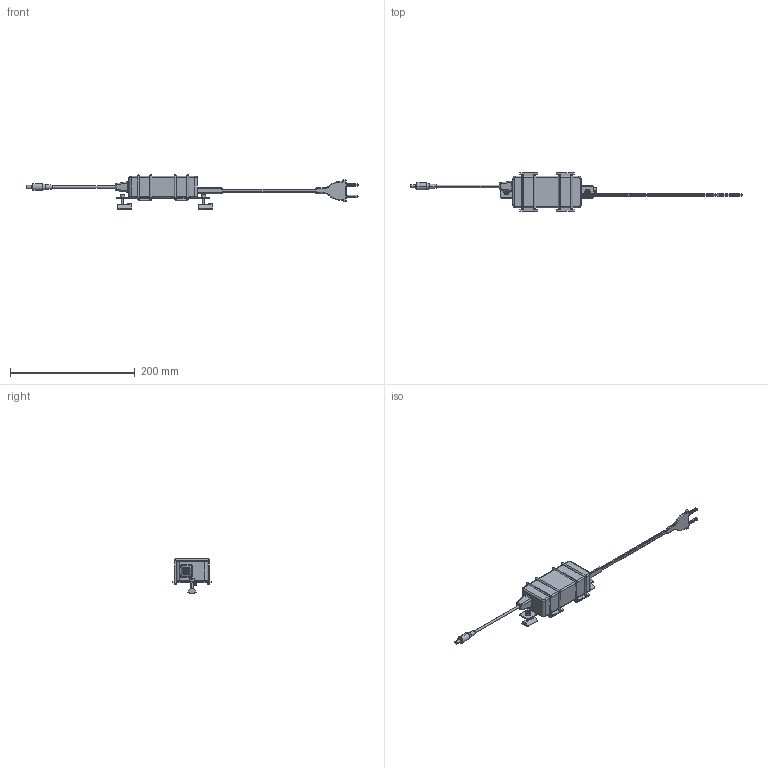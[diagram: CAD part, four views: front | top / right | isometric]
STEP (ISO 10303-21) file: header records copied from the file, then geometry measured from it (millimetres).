
FILE_DESCRIPTION (( 'STEP AP214' ), '1' );
FILE_NAME ('PowerPack Charger.STEP', '2024-10-21T10:25:03', ( '' ), ( '' ), 'SwSTEP 2.0', 'SolidWorks 2021', '' );
FILE_SCHEMA (( 'AUTOMOTIVE_DESIGN' ));
Length unit declared in the file: millimetre
Products named in the file (9): Gummi; PowerPack Charger; Kaufteil-PowerPack Charger; EZ03430; Nutenstein-M4-096024; EZ03428; DIN 912 M4 x 16 --- 16N - 8.8 verz._DIN 912 M4 x 16 --- 16N - 8.8 verz.; Washer DIN 125 - A 4.3 - A2_Washer DIN 125 - A 4.3 - A2; Kaufteil-Anschlußkabel PowerPack Charger
Assembly tree (12 placements, depth 3):
  PowerPack Charger
    EZ03430
      Kaufteil-PowerPack Charger
      Kaufteil-Anschlußkabel PowerPack Charger
    EZ03428
    Nutenstein-M4-096024  x2
    Washer DIN 125 - A 4.3 - A2_Washer DIN 125 - A 4.3 - A2  x2
    DIN 912 M4 x 16 --- 16N - 8.8 verz._DIN 912 M4 x 16 --- 16N - 8.8 verz.  x2
    Gummi  x2
Bounding box: 532.9 x 62 x 54.96 mm (x, y, z)
Volume: 220856.7 mm3; surface area: 51318.3 mm2
Topology: 9 solids, 11 shells, 693 faces, 1600 edges, 870 vertices
Faces by surface type: plane 322, cylinder 201, torus 67, cone 44, sphere 31, bspline 28
Entity records: 17425 total; most frequent: CARTESIAN_POINT 3881, DIRECTION 2902, ORIENTED_EDGE 2658, EDGE_CURVE 1329, AXIS2_PLACEMENT_3D 1037, VECTOR 828, LINE 828, VERTEX_POINT 742
